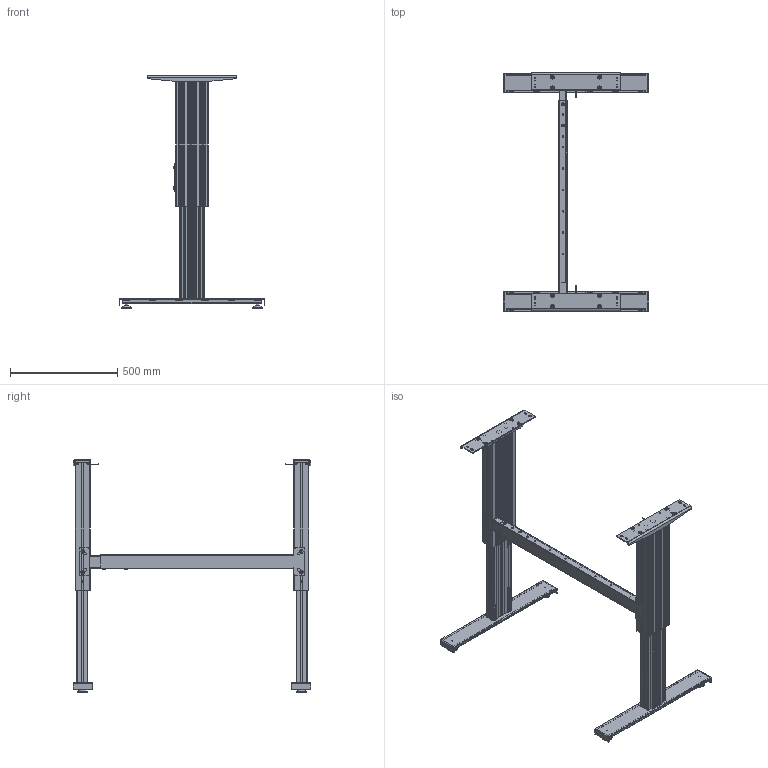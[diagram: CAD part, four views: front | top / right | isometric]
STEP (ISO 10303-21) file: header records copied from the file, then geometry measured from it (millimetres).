
FILE_DESCRIPTION(/* description */ ('Unknown'),/* implementation_level */ '2;1');
FILE_NAME(/* name */ '108.00314_01-Ausgefahren',/* time_stamp */ '2022-02-10T09:33:28+01:00',/* author */ ('Unknown'),/* organization */ ('Unknown'),/* preprocessor_version */ 'ST-DEVELOPER v18.1',/* originating_system */ 'Solid Edge',/* authorisation */ 'Unknown');
FILE_SCHEMA (('AUTOMOTIVE_DESIGN {1 0 10303 214 3 1 1}'));
Products named in the file (35): 108.00314; 306.00814_oa_0; 126.00147; 119.00312; 119.00311; 142.00166; 142.00343; 113.00002; 124.00123; 109.00025_oa_1; 115.00008_oa_2; 306.00814_oa_3; 109.00025_oa_4; 115.00008_oa_5; 127.00635; 060339~2; 060340~3; Sechskantmutter M6 DIN 934; Scheibe Ø6,4 DIN 125; Halbrundkopfschraube mit Innensechskant M8x12 ISO 7380-1; Scheibe Ø8,4 DIN 125; Nutenstein M8_montiert; Halbrundkopfschraube mit Innensechskant und Bund M6x16 ISO 7380-2; 127.00545; 127.00548; 127.00566; 127.00567; 127.00548_461_469_Kehlnaht 1_oa_6; 113.00006; 113.00006-ohne Mutter; Mutter M10; 115.00165; 127.00223; 142.00279; 142.00068
Assembly tree (76 placements, depth 4):
  108.00314
    306.00814_oa_0
      126.00147
      119.00312
      119.00311
      142.00166  x4
      142.00343  x2
      113.00002
      124.00123
      109.00025_oa_1
        115.00008_oa_2
    306.00814_oa_3
      126.00147
      119.00312
      119.00311
      142.00166  x4
      142.00343  x2
      113.00002
      124.00123
      109.00025_oa_4
        115.00008_oa_5
    127.00635
      060339~2
      060340~3
      Sechskantmutter M6 DIN 934  x4
      Scheibe Ø6,4 DIN 125  x4
      Halbrundkopfschraube mit Innensechskant M8x12 ISO 7380-1  x4
      Scheibe Ø8,4 DIN 125  x4
      Nutenstein M8_montiert  x4
      Halbrundkopfschraube mit Innensechskant und Bund M6x16 ISO 7380-2  x4
    127.00545  x2
      127.00548
        127.00566
        127.00567
        127.00548_461_469_Kehlnaht 1_oa_6
      113.00006
        113.00006-ohne Mutter
        Mutter M10
    115.00165  x2
      127.00223
      142.00279
      142.00068
Bounding box: 680 x 1110 x 1087 mm (x, y, z)
Volume: 7398710.1 mm3; surface area: 3856973.1 mm2
Topology: 102 solids, 102 shells, 6080 faces, 17067 edges, 11263 vertices
Faces by surface type: plane 3316, cylinder 2344, cone 234, torus 108, bspline 74, sphere 4
Full cylindrical faces by diameter (mm): 2.2 x2, 3.242 x4, 3.4 x2, 4 x6, 5 x10, 5.5 x8, 6 x8, 6.4 x4, 6.6 x2, 6.647 x12, 7 x16, 8 x18, 8.376 x10, 8.5 x28, 8.7 x8, 9 x8, 9.5 x4, 10 x4, 12 x4, 12.5 x2, 13.5 x2, 13.6 x4, 14 x4, 15 x4, 16.8 x4, 19 x4, 25 x14, 29 x4, 30 x4, 35 x4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
Entity records: 102406 total; most frequent: CARTESIAN_POINT 17486, ORIENTED_EDGE 15324, DIRECTION 15086, EDGE_CURVE 7662, VERTEX_POINT 5149, AXIS2_PLACEMENT_3D 5058, LINE 4970, VECTOR 4970
